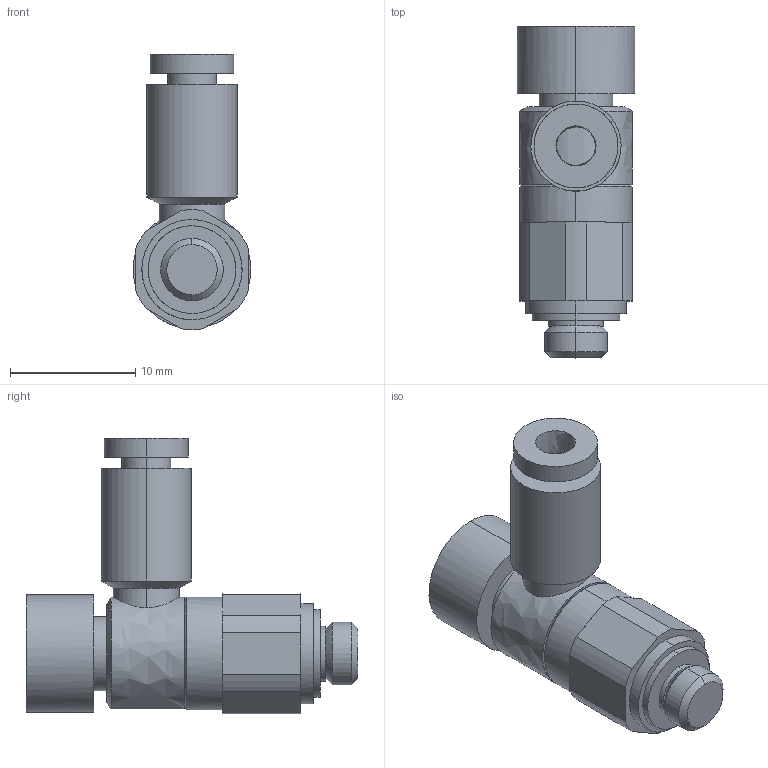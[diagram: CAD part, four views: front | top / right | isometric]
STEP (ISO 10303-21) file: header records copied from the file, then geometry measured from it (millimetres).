
FILE_DESCRIPTION (( 'STEP AP214' ), '1' );
FILE_NAME ('AS1211FC-M5-23A.STEP', '2023-03-08T08:54:25', ( 'Windows User' ), ( 'P R C' ), 'SwSTEP 2.0', 'SolidWorks 2019', '' );
FILE_SCHEMA (( 'AUTOMOTIVE_DESIGN' ));
Length unit declared in the file: millimetre
Products named in the file (1): AS1211FC-M5-23A
Bounding box: 9.4 x 26.5 x 22 mm (x, y, z)
Volume: 1905.2 mm3; surface area: 1415.7 mm2
Topology: 1 solids, 1 shells, 68 faces, 149 edges, 94 vertices
Faces by surface type: bspline 43, plane 25
Entity records: 2498 total; most frequent: CARTESIAN_POINT 1490, ORIENTED_EDGE 298, EDGE_CURVE 149, B_SPLINE_CURVE_WITH_KNOTS 100, VERTEX_POINT 94, EDGE_LOOP 79, ADVANCED_FACE 68, FACE_OUTER_BOUND 68
